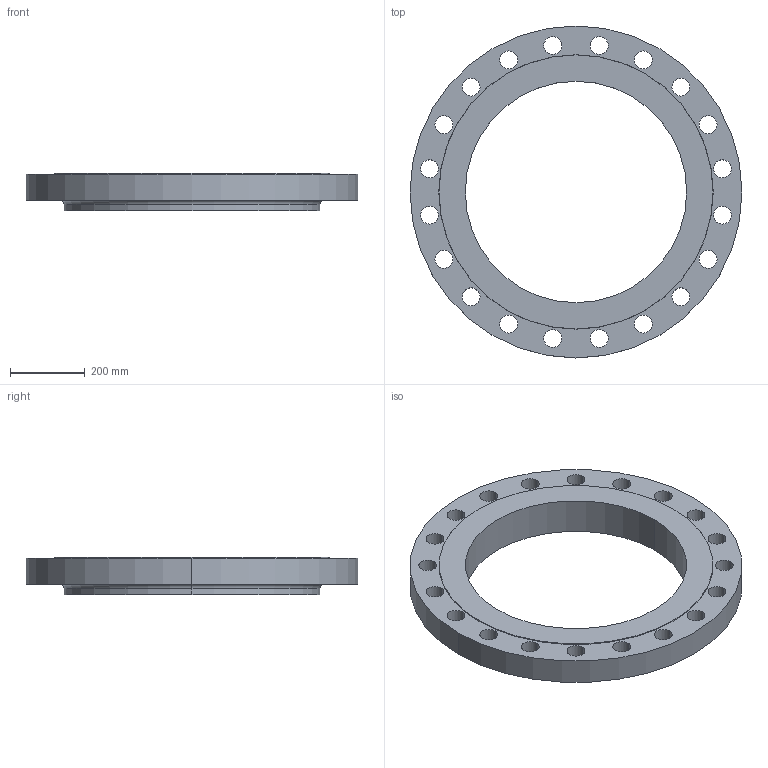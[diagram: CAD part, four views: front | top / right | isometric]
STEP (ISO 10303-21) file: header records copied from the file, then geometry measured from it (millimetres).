
FILE_DESCRIPTION (( 'STEP AP214' ), '1' );
FILE_NAME ('PN40 DN600 Type 13 - Type B Face.STEP', '2018-12-28T22:59:50', ( '' ), ( '' ), 'SwSTEP 2.0', 'SolidWorks 2019', '' );
FILE_SCHEMA (( 'AUTOMOTIVE_DESIGN' ));
Length unit declared in the file: millimetre
Products named in the file (1): PN40 DN600 Type 13 - Type B Face
Bounding box: 890 x 890 x 100 mm (x, y, z)
Volume: 24614548.2 mm3; surface area: 1265011.5 mm2
Topology: 1 solids, 1 shells, 54 faces, 148 edges, 98 vertices
Faces by surface type: cylinder 46, plane 4, torus 2, cone 2
Entity records: 1894 total; most frequent: DIRECTION 358, CARTESIAN_POINT 301, ORIENTED_EDGE 296, AXIS2_PLACEMENT_3D 155, EDGE_CURVE 148, CIRCLE 100, EDGE_LOOP 98, VERTEX_POINT 98
